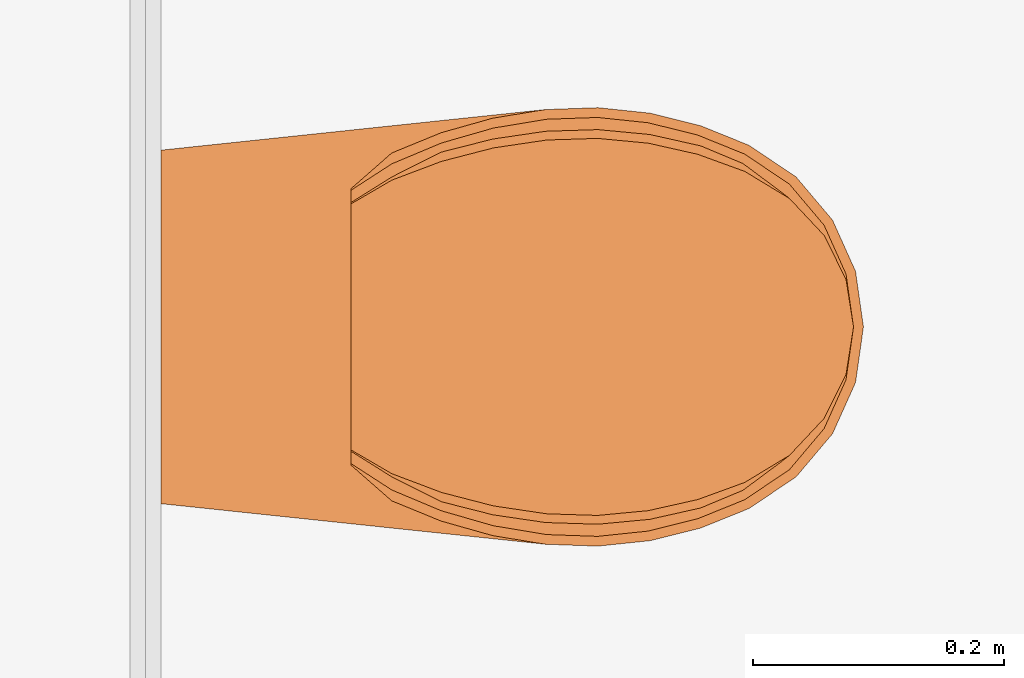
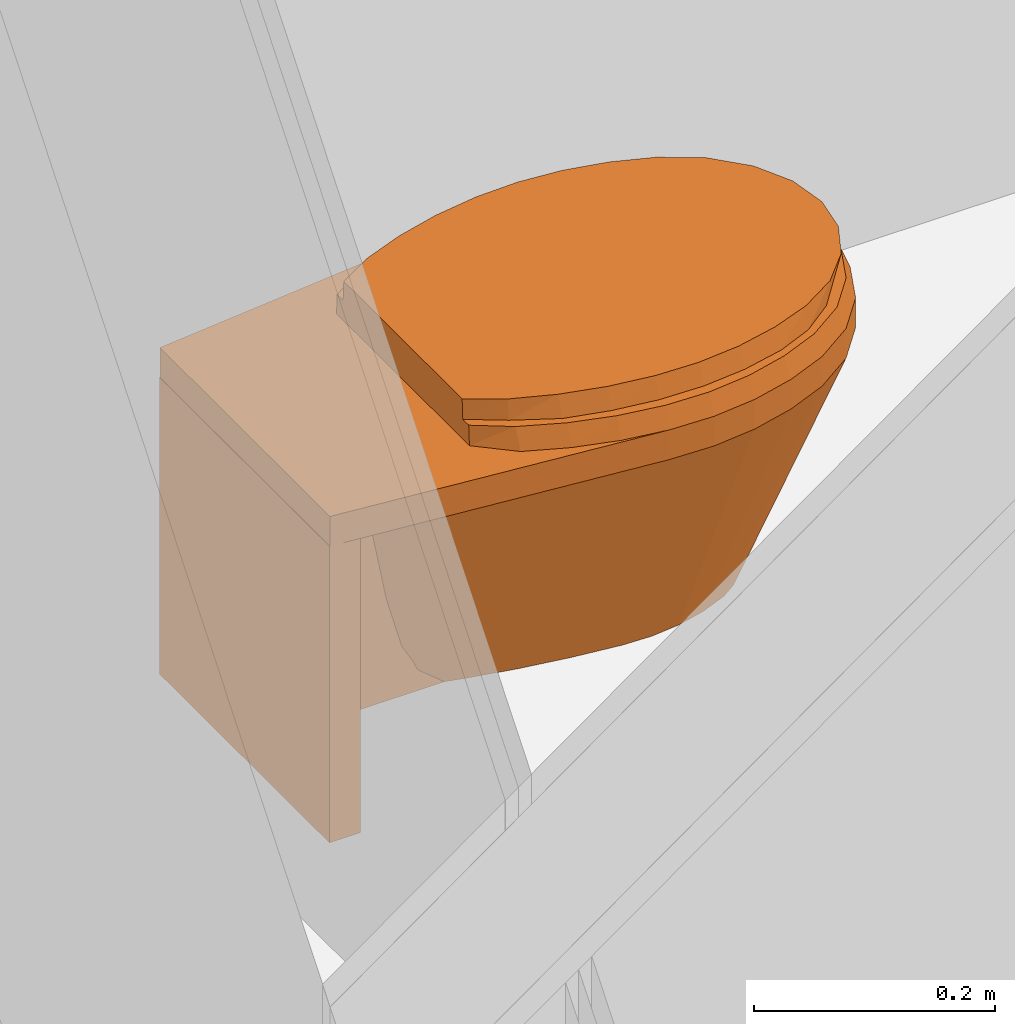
# One storey, part 131 of 135: 1 proxy.
"""IFC2X3 building model written with IfcOpenShell, lengths in millimetres."""

from ifc_helpers import new_model, entity, si_unit, converted_unit, derived_unit, money_unit, direction, frame, origin_with_axes, place, context, subcontext, project, spatial, open_shell, faceted_brep, surface_model, source, transform, mapped, type_object, type_shapes, element, save


model = new_model("IFC2X3")

# Units and contexts
model_context = context("Model", 3, precision=0.01, world=origin_with_axes(), true_north=direction((0.0, 1.0)))
body_context = subcontext(model_context, "Body", "Model", "MODEL_VIEW")
ifc_project = project(units=[si_unit("LENGTHUNIT", "METRE", prefix="MILLI"), si_unit("AREAUNIT", "SQUARE_METRE"), si_unit("VOLUMEUNIT", "CUBIC_METRE"), converted_unit("PLANEANGLEUNIT", "DEGREE", entity("IfcPlaneAngleMeasure", 0.0174532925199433), si_unit("PLANEANGLEUNIT", "RADIAN"), dimensions=[0, 0, 0, 0, 0, 0, 0]), money_unit("EUR"), converted_unit("TIMEUNIT", "Year", entity("IfcTimeMeasure", 31557600.0), si_unit("TIMEUNIT", "SECOND"), dimensions=[0, 0, 1, 0, 0, 0, 0]), si_unit("MASSUNIT", "GRAM", prefix="KILO"), si_unit("THERMODYNAMICTEMPERATUREUNIT", "DEGREE_CELSIUS"), si_unit("LUMINOUSINTENSITYUNIT", "LUMEN"), si_unit("ENERGYUNIT", "JOULE", prefix="MEGA"), derived_unit("THERMALCONDUCTANCEUNIT", [(si_unit("POWERUNIT", "WATT"), 1), (si_unit("LENGTHUNIT", "METRE"), -1), (si_unit("THERMODYNAMICTEMPERATUREUNIT", "KELVIN"), -1)]), derived_unit("SPECIFICHEATCAPACITYUNIT", [(si_unit("ENERGYUNIT", "JOULE"), 1), (si_unit("MASSUNIT", "GRAM", prefix="KILO"), -1), (si_unit("THERMODYNAMICTEMPERATUREUNIT", "KELVIN"), -1)]), derived_unit("MASSDENSITYUNIT", [(si_unit("MASSUNIT", "GRAM", prefix="KILO"), 1), (si_unit("VOLUMEUNIT", "CUBIC_METRE"), -1)])], contexts=[model_context])

# Site, building, storey
site_placement = place(None, origin_with_axes())
site = spatial("IfcSite", under=ifc_project, at=site_placement, Name="Site", CompositionType="ELEMENT")
building_placement = place(site_placement, origin_with_axes())
building = spatial("IfcBuilding", under=site, at=building_placement, Name="Naam gebouw", CompositionType="ELEMENT")
storey_placement = place(building_placement, origin_with_axes())
storey = spatial("IfcBuildingStorey", under=building, at=storey_placement, Name="Begane grond N", CompositionType="ELEMENT", Elevation=0.0)

# Proxy
building_element_proxy_type = type_object("IfcBuildingElementProxyType", Name="Toilet 27", PredefinedType="NOTDEFINED")
shared_shape = source(origin_with_axes(), body_context, "Body", "SurfaceModel", [
    faceted_brep([(141.0283315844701, -29.31865370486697, 69.99999999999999), (-141.0283315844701, -29.31865370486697, 69.99999999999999), (-141.0283315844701, 0.4949050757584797, 69.99999999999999), (141.0283315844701, 0.4949050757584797, 69.99999999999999), (141.0283315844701, -29.31865370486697, 370.0), (-141.0283315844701, -29.31865370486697, 370.0), (-141.0283315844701, 0.4949050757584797, 370.0), (141.0283315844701, 0.4949050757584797, 370.0)], [[[0, 1, 2, 3]], [[1, 0, 4, 5]], [[2, 1, 5, 6]], [[3, 2, 6, 7]], [[0, 3, 7, 4]], [[5, 4, 7, 6]]]),
    faceted_brep([(0.0, -70.89167385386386, 370.0), (29.22322490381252, -74.34010881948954, 370.0), (48.96817068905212, -81.5929972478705, 370.0), (48.96817068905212, -29.31865370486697, 370.0), (-48.96817068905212, -29.31865370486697, 370.0), (-48.96817068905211, -81.5929972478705, 370.0), (-29.22322490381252, -74.34010881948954, 370.0), (13.70129415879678, -104.9506834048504, 120.0), (48.96817068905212, -91.42153264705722, 305.9289314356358), (25.9903462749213, -111.5027098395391, 120.0), (48.96817068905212, -132.9294031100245, 150.8349994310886), (48.96817068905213, -162.8654130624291, 120.0), (48.96817068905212, -29.31865370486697, 120.0), (48.96817068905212, -98.32654517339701, 277.0091093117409), (48.96817068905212, -115.6023982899, 192.7960154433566), (48.96817068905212, -128.1614437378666, 166.4745945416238), (-48.96817068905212, -29.31865370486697, 120.0), (-48.96817068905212, -88.2509938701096, 324.1614695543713), (-48.96817068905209, -162.865413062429, 120.0), (-48.96817068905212, -136.958898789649, 141.3134093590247), (-48.96817068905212, -132.9294031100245, 150.8349994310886), (-48.96817068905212, -121.830119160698, 170.4964192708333), (-48.96817068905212, -115.6023982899, 192.7960154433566), (-48.96817068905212, -107.0876370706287, 223.4625696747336), (-48.96817068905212, -91.42153264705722, 305.9289314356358), (-13.70129415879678, -104.9506834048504, 120.0), (0.0, -102.6888280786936, 120.0), (35.59888072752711, -121.6691333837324, 120.0), (41.53676110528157, -134.4015105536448, 120.0), (-41.53676110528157, -134.4015105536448, 120.0), (-25.9903462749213, -111.5027098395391, 120.0), (-35.59888072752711, -121.6691333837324, 120.0)], [[[0, 1, 2, 3, 4, 5, 6]], [[1, 0, 7]], [[8, 2, 1, 9]], [[10, 11, 12, 3, 2, 8, 13, 14, 15]], [[3, 12, 16, 4]], [[17, 5, 4, 16, 18, 19, 20, 21, 22, 23, 24]], [[6, 5, 17, 25]], [[0, 6, 26]], [[26, 7, 0]], [[7, 9, 1]], [[13, 8, 9, 27]], [[11, 10, 28]], [[29, 18, 16, 12, 11, 28, 27, 9, 7, 26, 25, 30, 31]], [[14, 13, 27]], [[15, 14, 27, 28]], [[10, 15, 28]], [[18, 29, 19]], [[20, 19, 29]], [[29, 31, 21, 20]], [[22, 21, 31]], [[31, 30, 23, 22]], [[24, 23, 30]], [[30, 25, 17, 24]], [[25, 26, 6]]]),
    surface_model("IfcShellBasedSurfaceModel", [(17.69122070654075, -459.020482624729, 120.0), (34.02798181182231, -451.6883347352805, 120.0), (85.18209164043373, -535.3680377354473, 370.0), (0.0, -461.5278029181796, 120.0), (-17.69122070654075, -459.020482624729, 120.0), (-34.02798181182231, -451.6883347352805, 120.0), (-47.75865687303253, -440.0938417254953, 120.0), (-57.83238894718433, -425.1254476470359, 120.0), (-68.23029031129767, -399.4182096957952, 120.0), (-74.94382651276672, -372.4786779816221, 120.0), (-77.83882476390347, -344.8464779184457, 120.0), (-76.85750262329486, -317.0761416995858, 120.0), (-70.97348723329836, -270.8651255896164, 120.0), (-63.11507520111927, -224.9582077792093, 120.0), (-53.29597761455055, -179.4418475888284, 120.0), (-41.53676110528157, -134.4015105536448, 120.0), (-35.59888072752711, -121.6691333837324, 120.0), (-25.9903462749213, -111.5027098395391, 120.0), (-13.70129415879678, -104.9506834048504, 120.0), (0.0, -102.6888280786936, 120.0), (13.70129415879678, -104.9506834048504, 120.0), (25.9903462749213, -111.5027098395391, 120.0), (35.59888072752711, -121.6691333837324, 120.0), (41.53676110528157, -134.4015105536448, 120.0), (53.29597761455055, -179.4418475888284, 120.0), (63.11507520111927, -224.9582077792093, 120.0), (70.97348723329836, -270.8651255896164, 120.0), (76.85750262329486, -317.0761416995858, 120.0), (77.83882476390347, -344.845484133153, 120.0), (74.94382651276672, -372.4786779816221, 120.0), (68.23029031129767, -399.4182096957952, 120.0), (57.83238894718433, -425.1254476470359, 120.0), (47.75865687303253, -440.0938417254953, 120.0), (119.554809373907, -506.3435444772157, 370.0), (44.28681357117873, -553.722258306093, 370.0), (0.0, -560.0, 370.0), (-44.28681357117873, -553.722258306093, 370.0), (-85.18209164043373, -535.3680377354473, 370.0), (-119.554809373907, -506.3435444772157, 370.0), (-144.7734172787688, -468.8718762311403, 370.0), (-160.3893669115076, -430.2603362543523, 370.0), (-170.4738719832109, -389.7973742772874, 370.0), (-174.8222455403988, -348.2949128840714, 370.0), (-173.3473242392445, -306.5847503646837, 370.0), (-164.8111927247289, -257.295981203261, 370.0), (-149.8396642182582, -209.614162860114, 370.0), (-128.7050017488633, -164.3989196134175, 370.0), (-101.7881776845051, -122.4661491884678, 370.0), (-81.51241692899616, -100.8344247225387, 370.0), (-56.88632388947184, -84.50156343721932, 370.0), (-29.22322490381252, -74.34010881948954, 370.0), (0.0, -70.89167385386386, 370.0), (29.22322490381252, -74.34010881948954, 370.0), (56.88632388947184, -84.50156343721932, 370.0), (81.51241692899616, -100.8344247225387, 370.0), (101.7881776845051, -122.4661491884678, 370.0), (128.7050017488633, -164.3989196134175, 370.0), (149.8396642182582, -209.614162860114, 370.0), (164.8111927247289, -257.2969749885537, 370.0), (173.3473242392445, -306.5847503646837, 370.0), (174.8222455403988, -348.2949128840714, 370.0), (170.4738719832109, -389.7973742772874, 370.0), (160.3903462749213, -430.2603362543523, 370.0), (144.7734172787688, -468.8718762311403, 370.0)], [open_shell([[[0, 1, 2]], [[0, 3, 4, 5, 6, 7, 8, 9, 10, 11, 12, 13, 14, 15, 16, 17, 18, 19, 20, 21, 22, 23, 24, 25, 26, 27, 28, 29, 30, 31, 32, 1]], [[1, 33, 2]], [[0, 2, 34]], [[3, 0, 34]], [[4, 3, 35]], [[5, 4, 36]], [[6, 5, 37]], [[7, 6, 38]], [[8, 7, 39]], [[9, 8, 40]], [[10, 9, 41]], [[11, 10, 42]], [[12, 11, 43]], [[13, 12, 44]], [[14, 13, 45]], [[15, 14, 46]], [[16, 15, 47]], [[17, 16, 48]], [[18, 17, 49]], [[19, 18, 50]], [[20, 19, 51]], [[21, 20, 52]], [[22, 21, 53]], [[23, 22, 54]], [[24, 23, 55]], [[25, 24, 56]], [[26, 25, 57]], [[27, 26, 58]], [[28, 27, 59]], [[29, 28, 60]], [[30, 29, 61]], [[31, 30, 62]], [[32, 31, 63]], [[1, 32, 33]], [[3, 34, 35]], [[4, 35, 36]], [[5, 36, 37]], [[6, 37, 38]], [[7, 38, 39]], [[8, 39, 40]], [[9, 40, 41]], [[10, 41, 42]], [[11, 42, 43]], [[12, 43, 44]], [[13, 44, 45]], [[14, 45, 46]], [[15, 46, 47]], [[16, 47, 48]], [[17, 48, 49]], [[18, 49, 50]], [[19, 50, 51]], [[20, 51, 52]], [[21, 52, 53]], [[22, 53, 54]], [[23, 54, 55]], [[24, 55, 56]], [[25, 56, 57]], [[26, 57, 58]], [[27, 58, 59]], [[28, 59, 60]], [[29, 60, 61]], [[30, 61, 62]], [[31, 62, 63]], [[32, 63, 33]]])]),
    faceted_brep([(-173.3473242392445, -306.5847503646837, 370.0), (-174.8222455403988, -348.2949128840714, 370.0), (-174.8222455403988, -348.2949128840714, 400.0), (-173.3473242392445, -306.5847503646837, 400.0), (-140.9734872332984, 0.0, 370.0), (140.975445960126, 0.0, 370.0), (173.3473242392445, -306.5847503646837, 370.0), (174.8222455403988, -348.2949128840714, 370.0), (170.4738719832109, -389.7973742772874, 370.0), (160.3903462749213, -430.2603362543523, 370.0), (144.7734172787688, -468.8718762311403, 370.0), (119.554809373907, -506.3435444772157, 370.0), (85.18209164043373, -535.3680377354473, 370.0), (44.28681357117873, -553.722258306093, 370.0), (0.0, -560.0, 370.0), (-44.28681357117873, -553.722258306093, 370.0), (-85.18209164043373, -535.3680377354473, 370.0), (-119.554809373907, -506.3435444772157, 370.0), (-144.7734172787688, -468.8718762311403, 370.0), (-160.3893669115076, -430.2603362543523, 370.0), (-170.4738719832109, -389.7973742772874, 370.0), (144.5021336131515, -309.7211367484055, 370.0), (129.3885974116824, -258.2838037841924, 370.0), (97.13522210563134, -215.7418429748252, 370.0), (52.01301154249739, -187.731010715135, 370.0), (0.0, -177.9630950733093, 370.0), (-52.01301154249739, -187.731010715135, 370.0), (-97.13522210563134, -215.7418429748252, 370.0), (-129.3885974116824, -258.2838037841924, 370.0), (-144.5021336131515, -309.7211367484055, 370.0), (-145.8291710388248, -347.2633637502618, 370.0), (-141.914655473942, -384.6197529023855, 370.0), (-132.838894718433, -421.0399963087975, 370.0), (-118.7820916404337, -455.7936617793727, 370.0), (-98.09206016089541, -486.5383973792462, 370.0), (-69.89031129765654, -510.3524743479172, 370.0), (-36.33634137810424, -525.411302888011, 370.0), (0.0, -530.5620920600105, 370.0), (36.33634137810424, -525.411302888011, 370.0), (69.89031129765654, -510.3524743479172, 370.0), (98.09206016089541, -486.5383973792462, 370.0), (118.7820916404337, -455.7936617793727, 370.0), (132.838894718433, -421.0399963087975, 370.0), (141.914655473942, -384.6197529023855, 370.0), (145.8291710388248, -347.2633637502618, 370.0), (-170.4738719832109, -389.7973742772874, 400.0), (-160.3893669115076, -430.2603362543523, 400.0), (-144.7734172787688, -468.8718762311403, 400.0), (-119.554809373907, -506.3435444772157, 400.0), (-85.18209164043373, -535.3680377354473, 400.0), (-44.28681357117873, -553.722258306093, 400.0), (0.0, -560.0, 400.0), (44.28681357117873, -553.722258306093, 400.0), (85.18209164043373, -535.3680377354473, 400.0), (119.554809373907, -506.3435444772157, 400.0), (144.7734172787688, -468.8718762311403, 400.0), (160.3903462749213, -430.2603362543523, 400.0), (170.4738719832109, -389.7973742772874, 400.0), (174.8222455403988, -348.2949128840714, 400.0), (173.3473242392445, -306.5847503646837, 400.0), (140.975445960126, 0.0, 400.0), (-140.9734872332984, 0.0, 400.0), (144.5021336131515, -309.7211367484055, 400.0), (145.8291710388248, -347.2633637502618, 400.0), (141.914655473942, -384.6197529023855, 400.0), (132.838894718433, -421.0399963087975, 400.0), (118.7820916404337, -455.7936617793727, 400.0), (98.09206016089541, -486.5383973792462, 400.0), (69.89031129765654, -510.3524743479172, 400.0), (36.33634137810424, -525.411302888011, 400.0), (0.0, -530.5620920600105, 400.0), (-36.33634137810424, -525.411302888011, 400.0), (-69.89031129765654, -510.3524743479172, 400.0), (-98.09206016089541, -486.5383973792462, 400.0), (-118.7820916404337, -455.7936617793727, 400.0), (-132.838894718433, -421.0399963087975, 400.0), (-141.914655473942, -384.6197529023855, 400.0), (-145.8291710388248, -347.2633637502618, 400.0), (-144.5021336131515, -309.7211367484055, 400.0), (-129.3885974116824, -258.2838037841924, 400.0), (-97.13522210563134, -215.7418429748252, 400.0), (-52.01301154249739, -187.731010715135, 400.0), (0.0, -177.9630950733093, 400.0), (52.01301154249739, -187.731010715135, 400.0), (97.13522210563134, -215.7418429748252, 400.0), (129.3885974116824, -258.2838037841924, 400.0)], [[[0, 1, 2, 3]], [[0, 4, 5, 6, 7, 8, 9, 10, 11, 12, 13, 14, 15, 16, 17, 18, 19, 20, 1], [21, 22, 23, 24, 25, 26, 27, 28, 29, 30, 31, 32, 33, 34, 35, 36, 37, 38, 39, 40, 41, 42, 43, 44]], [[1, 20, 45, 2]], [[3, 2, 45, 46, 47, 48, 49, 50, 51, 52, 53, 54, 55, 56, 57, 58, 59, 60, 61], [62, 63, 64, 65, 66, 67, 68, 69, 70, 71, 72, 73, 74, 75, 76, 77, 78, 79, 80, 81, 82, 83, 84, 85]], [[4, 0, 3, 61]], [[5, 4, 61, 60]], [[6, 5, 60, 59]], [[7, 6, 59, 58]], [[8, 7, 58, 57]], [[9, 8, 57, 56]], [[10, 9, 56, 55]], [[11, 10, 55, 54]], [[12, 11, 54, 53]], [[13, 12, 53, 52]], [[14, 13, 52, 51]], [[15, 14, 51, 50]], [[16, 15, 50, 49]], [[17, 16, 49, 48]], [[18, 17, 48, 47]], [[19, 18, 47, 46]], [[20, 19, 46, 45]], [[22, 21, 62, 85]], [[23, 22, 85, 84]], [[24, 23, 84, 83]], [[25, 24, 83, 82]], [[26, 25, 82, 81]], [[27, 26, 81, 80]], [[28, 27, 80, 79]], [[29, 28, 79, 78]], [[30, 29, 78, 77]], [[31, 30, 77, 76]], [[32, 31, 76, 75]], [[33, 32, 75, 74]], [[34, 33, 74, 73]], [[35, 34, 73, 72]], [[36, 35, 72, 71]], [[37, 36, 71, 70]], [[38, 37, 70, 69]], [[39, 38, 69, 68]], [[40, 39, 68, 67]], [[41, 40, 67, 66]], [[42, 41, 66, 65]], [[43, 42, 65, 64]], [[44, 43, 64, 63]], [[21, 44, 63, 62]]]),
    surface_model("IfcShellBasedSurfaceModel", [(16.80665967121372, -465.7329258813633, 220.0), (32.3265827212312, -460.0138505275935, 220.0), (80.92298705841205, -525.2840188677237, 370.0), (0.0, -467.6886357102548, 220.0), (-16.80665967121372, -465.7329258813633, 220.0), (-32.3265827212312, -460.0138505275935, 220.0), (-45.3707240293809, -450.970145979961, 220.0), (-54.94076949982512, -439.2947985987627, 220.0), (-64.81877579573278, -419.2431529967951, 220.0), (-71.1966351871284, -398.23031825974, 220.0), (-73.9468835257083, -376.6772022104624, 220.0), (-73.01462749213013, -355.0163399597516, 220.0), (-67.42481287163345, -318.9717473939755, 220.0), (-59.95932144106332, -283.164351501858, 220.0), (-50.63117873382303, -247.6615905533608, 220.0), (-39.4599230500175, -212.5301276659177, 220.0), (-33.81893669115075, -202.598873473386, 220.0), (-24.69082896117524, -194.6690631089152, 220.0), (-13.01622945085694, -189.558482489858, 220.0), (0.0, -187.7942353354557, 220.0), (13.01622945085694, -189.558482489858, 220.0), (24.69082896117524, -194.6690631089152, 220.0), (33.81893669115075, -202.598873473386, 220.0), (39.4599230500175, -212.5301276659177, 220.0), (50.63117873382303, -247.6615905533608, 220.0), (59.95932144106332, -283.164351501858, 220.0), (67.42481287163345, -318.9717473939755, 220.0), (73.01462749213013, -355.0163399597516, 220.0), (73.9468835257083, -376.6764270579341, 220.0), (71.1966351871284, -398.23031825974, 220.0), (64.81877579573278, -419.2431529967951, 220.0), (54.94076949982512, -439.2947985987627, 220.0), (45.3707240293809, -450.970145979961, 220.0), (113.5770689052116, -502.644914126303, 370.0), (42.0724728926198, -539.6003109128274, 370.0), (0.0, -544.4969494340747, 370.0), (-42.0724728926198, -539.6003109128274, 370.0), (-80.92298705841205, -525.2840188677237, 370.0), (-113.5770689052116, -502.644914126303, 370.0), (-137.5347464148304, -473.4170128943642, 370.0), (-152.3698985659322, -443.3000117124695, 370.0), (-161.9501783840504, -411.7389013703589, 370.0), (-166.0811332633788, -379.3669814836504, 370.0), (-164.6799580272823, -346.833054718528, 370.0), (-156.5706330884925, -308.3878147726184, 370.0), (-142.3476810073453, -271.1959964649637, 370.0), (-122.2697516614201, -235.9281067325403, 370.0), (-96.69876880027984, -203.2205458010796, 370.0), (-77.43679608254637, -186.3478007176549, 370.0), (-54.04200769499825, -173.6081689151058, 370.0), (-27.7620636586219, -165.6822343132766, 370.0), (0.0, -162.9924550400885, 370.0), (27.7620636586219, -165.6822343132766, 370.0), (54.04200769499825, -173.6081689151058, 370.0), (77.43679608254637, -186.3478007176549, 370.0), (96.69876880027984, -203.2205458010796, 370.0), (122.2697516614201, -235.9281067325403, 370.0), (142.3476810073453, -271.1959964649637, 370.0), (156.5706330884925, -308.3885899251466, 370.0), (164.6799580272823, -346.833054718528, 370.0), (166.0811332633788, -379.3669814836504, 370.0), (161.9501783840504, -411.7389013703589, 370.0), (152.3708289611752, -443.3000117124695, 370.0), (137.5347464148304, -473.4170128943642, 370.0)], [open_shell([[[0, 1, 2]], [[0, 3, 4, 5, 6, 7, 8, 9, 10, 11, 12, 13, 14, 15, 16, 17, 18, 19, 20, 21, 22, 23, 24, 25, 26, 27, 28, 29, 30, 31, 32, 1]], [[1, 33, 2]], [[0, 2, 34]], [[3, 0, 34]], [[4, 3, 35]], [[5, 4, 36]], [[6, 5, 37]], [[7, 6, 38]], [[8, 7, 39]], [[9, 8, 40]], [[10, 9, 41]], [[11, 10, 42]], [[12, 11, 43]], [[13, 12, 44]], [[14, 13, 45]], [[15, 14, 46]], [[16, 15, 47]], [[17, 16, 48]], [[18, 17, 49]], [[19, 18, 50]], [[20, 19, 51]], [[21, 20, 52]], [[22, 21, 53]], [[23, 22, 54]], [[24, 23, 55]], [[25, 24, 56]], [[26, 25, 57]], [[27, 26, 58]], [[28, 27, 59]], [[29, 28, 60]], [[30, 29, 61]], [[31, 30, 62]], [[32, 31, 63]], [[1, 32, 33]], [[3, 34, 35]], [[4, 35, 36]], [[5, 36, 37]], [[6, 37, 38]], [[7, 38, 39]], [[8, 39, 40]], [[9, 40, 41]], [[10, 41, 42]], [[11, 42, 43]], [[12, 43, 44]], [[13, 44, 45]], [[14, 45, 46]], [[15, 46, 47]], [[16, 47, 48]], [[17, 48, 49]], [[18, 49, 50]], [[19, 50, 51]], [[20, 51, 52]], [[21, 52, 53]], [[22, 53, 54]], [[23, 54, 55]], [[24, 55, 56]], [[25, 56, 57]], [[26, 57, 58]], [[27, 58, 59]], [[28, 59, 60]], [[29, 60, 61]], [[30, 61, 62]], [[31, 62, 63]], [[32, 63, 33]]])]),
    faceted_brep([(0.0, -560.0, 400.0), (-44.28681357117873, -553.722258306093, 400.0), (-85.18209164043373, -535.3680377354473, 400.0), (-119.554809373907, -506.3435444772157, 400.0), (-144.7734172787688, -468.8718762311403, 400.0), (-160.3893669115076, -430.2603362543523, 400.0), (-170.4738719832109, -389.7973742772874, 400.0), (-174.8222455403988, -348.2949128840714, 400.0), (-173.3473242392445, -306.5847503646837, 400.0), (-166.4663168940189, -264.4263906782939, 400.0), (-154.8716334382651, -223.3443004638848, 400.0), (-138.7150752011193, -183.8810864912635, 400.0), (-110.1926579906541, -151.3163525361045, 400.0), (110.1926579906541, -151.3163525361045, 400.0), (138.7150752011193, -183.8810864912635, 400.0), (154.8716334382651, -223.3443004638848, 400.0), (166.4663168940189, -264.4263906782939, 400.0), (173.3473242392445, -306.5847503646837, 400.0), (174.8222455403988, -348.2949128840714, 400.0), (170.4738719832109, -389.7973742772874, 400.0), (160.3903462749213, -430.2603362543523, 400.0), (144.7734172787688, -468.8718762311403, 400.0), (119.554809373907, -506.3435444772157, 400.0), (85.18209164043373, -535.3680377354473, 400.0), (44.28681357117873, -553.722258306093, 400.0), (87.07689659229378, -411.9963613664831, 400.0), (94.51085540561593, -382.2763031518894, 400.0), (97.71606496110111, -351.7983255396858, 400.0), (96.61425296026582, -320.7429308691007, 400.0), (90.99294096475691, -286.7942733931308, 400.0), (81.32886310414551, -253.3381075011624, 400.0), (68.75448552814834, -223.4663237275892, 400.0), (-68.75412876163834, -223.4663237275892, 400.0), (-81.3289539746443, -253.3384220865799, 400.0), (-90.99294096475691, -286.7942733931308, 400.0), (-96.61425296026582, -320.7429308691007, 400.0), (-97.71606496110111, -351.7983255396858, 400.0), (-94.51085540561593, -382.2763031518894, 400.0), (-87.07689659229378, -411.9963613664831, 400.0), (-76.4888004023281, -438.0775703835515, 400.0), (-62.06856874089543, -459.4262123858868, 400.0), (-44.26109835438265, -474.4067566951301, 400.0), (-23.02579943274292, -483.9023013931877, 400.0), (0.0, -487.1544663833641, 400.0), (23.02579943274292, -483.9023013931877, 400.0), (44.26109835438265, -474.4067566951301, 400.0), (62.06856874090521, -459.4262123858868, 400.0), (76.4888004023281, -438.0775703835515, 400.0), (0.0, -552.0944379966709, 420.0000000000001), (-42.15180132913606, -546.1188070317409, 420.0000000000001), (-81.07562084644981, -528.649055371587, 420.0000000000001), (-113.7912556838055, -501.0248055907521, 420.0000000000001), (-137.7925148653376, -465.3598390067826, 420.0000000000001), (-152.9902763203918, -427.7848170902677, 420.0000000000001), (-162.8034977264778, -388.4070686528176, 420.0000000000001), (-167.0353270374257, -348.0176467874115, 420.0000000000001), (-165.6005596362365, -307.4274802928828, 420.0000000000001), (-158.5902763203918, -264.9332211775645, 420.0000000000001), (-146.6880727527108, -223.5758524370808, 420.0000000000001), (-130.06142007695, -183.9317695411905, 420.0000000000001), (-108.940468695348, -151.3163525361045, 420.0000000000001), (108.940468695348, -151.3163525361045, 420.0000000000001), (130.06142007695, -183.9307757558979, 420.0000000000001), (146.6880727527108, -223.5758524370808, 420.0000000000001), (158.5902763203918, -264.9332211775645, 420.0000000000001), (165.6005596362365, -307.4274802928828, 420.0000000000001), (167.0353270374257, -348.0176467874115, 420.0000000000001), (162.8034977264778, -388.4070686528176, 420.0000000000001), (152.9902763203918, -427.7848170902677, 420.0000000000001), (137.7925148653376, -465.3598390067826, 420.0000000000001), (113.7912556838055, -501.0248055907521, 420.0000000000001), (81.07562084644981, -528.649055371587, 420.0000000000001), (42.15180132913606, -546.1188070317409, 420.0000000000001), (87.07689659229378, -411.9963613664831, 420.0), (94.51085540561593, -382.2763031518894, 420.0), (97.71606496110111, -351.7983255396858, 420.0), (96.61425296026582, -320.7429308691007, 420.0), (90.99294096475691, -286.7942733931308, 420.0), (81.32886310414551, -253.3381075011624, 420.0), (68.75448552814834, -223.4663237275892, 420.0), (-68.75412876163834, -223.4663237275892, 420.0000000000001), (-81.3289539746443, -253.3384220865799, 420.0000000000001), (-90.99294096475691, -286.7942733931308, 420.0000000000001), (-96.61425296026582, -320.7429308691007, 420.0000000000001), (-97.71606496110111, -351.7983255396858, 420.0000000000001), (-94.51085540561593, -382.2763031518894, 420.0000000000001), (-87.07689659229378, -411.9963613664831, 420.0000000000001), (-76.4888004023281, -438.0775703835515, 420.0000000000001), (-62.06856874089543, -459.4262123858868, 420.0000000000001), (-44.26109835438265, -474.4067566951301, 420.0000000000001), (-23.02579943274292, -483.9023013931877, 420.0000000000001), (0.0, -487.1544663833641, 420.0), (23.02579943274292, -483.9023013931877, 420.0), (44.26109835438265, -474.4067566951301, 420.0), (62.06856874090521, -459.4262123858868, 420.0), (76.4888004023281, -438.0775703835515, 420.0)], [[[0, 1, 2, 3, 4, 5, 6, 7, 8, 9, 10, 11, 12, 13, 14, 15, 16, 17, 18, 19, 20, 21, 22, 23, 24], [25, 26, 27, 28, 29, 30, 31, 32, 33, 34, 35, 36, 37, 38, 39, 40, 41, 42, 43, 44, 45, 46, 47]], [[1, 0, 48]], [[2, 1, 49]], [[3, 2, 50]], [[4, 3, 51]], [[5, 4, 52]], [[6, 5, 53]], [[6, 54, 55, 7]], [[8, 7, 55]], [[9, 8, 56]], [[10, 9, 57]], [[11, 10, 58]], [[12, 11, 59]], [[12, 60, 61, 13]], [[14, 13, 61]], [[15, 14, 62]], [[16, 15, 63]], [[17, 16, 64]], [[18, 17, 65]], [[18, 66, 67, 19]], [[20, 19, 67]], [[20, 68, 69, 21]], [[22, 21, 69]], [[23, 22, 70]], [[24, 23, 71]], [[0, 24, 72]], [[73, 74, 26, 25]], [[74, 75, 27, 26]], [[75, 76, 28, 27]], [[76, 77, 29, 28]], [[77, 78, 30, 29]], [[78, 79, 31, 30]], [[79, 80, 32, 31]], [[80, 81, 33, 32]], [[81, 82, 34, 33]], [[82, 83, 35, 34]], [[83, 84, 36, 35]], [[84, 85, 37, 36]], [[85, 86, 38, 37]], [[86, 87, 39, 38]], [[87, 88, 40, 39]], [[88, 89, 41, 40]], [[89, 90, 42, 41]], [[90, 91, 43, 42]], [[91, 92, 44, 43]], [[92, 93, 45, 44]], [[93, 94, 46, 45]], [[94, 95, 47, 46]], [[95, 73, 25, 47]], [[0, 72, 48]], [[1, 48, 49]], [[2, 49, 50]], [[3, 50, 51]], [[4, 51, 52]], [[5, 52, 53]], [[6, 53, 54]], [[54, 53, 52, 51, 50, 49, 48, 72, 71, 70, 69, 68, 67, 66, 65, 64, 63, 62, 61, 60, 59, 58, 57, 56, 55], [77, 76, 75, 74, 73, 95, 94, 93, 92, 91, 90, 89, 88, 87, 86, 85, 84, 83, 82, 81, 80, 79, 78]], [[8, 55, 56]], [[9, 56, 57]], [[10, 57, 58]], [[11, 58, 59]], [[12, 59, 60]], [[14, 61, 62]], [[15, 62, 63]], [[16, 63, 64]], [[17, 64, 65]], [[18, 65, 66]], [[20, 67, 68]], [[22, 69, 70]], [[23, 70, 71]], [[24, 71, 72]]]),
    faceted_brep([(-107.5993284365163, -494.4181209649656, 420.0000000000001), (-76.66388247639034, -519.4674730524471, 420.0000000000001), (-72.96805876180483, -528.649055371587, 440.0000000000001), (-130.2960755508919, -463.9029497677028, 420.0000000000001), (-144.3504302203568, -430.2603362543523, 420.0000000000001), (-153.4264847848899, -389.7973742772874, 420.0000000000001), (-157.3400209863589, -348.2949128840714, 420.0000000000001), (-156.01259181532, -306.5847503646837, 420.0000000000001), (-149.819685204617, -264.4263906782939, 420.0000000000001), (-139.3844700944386, -223.3443004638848, 420.0000000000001), (-119.5550052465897, -183.8810864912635, 420.0000000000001), (-99.17339219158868, -151.3163525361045, 420.0000000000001), (99.17339219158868, -151.3163525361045, 420.0000000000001), (119.5550052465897, -183.8810864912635, 420.0000000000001), (139.3844700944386, -223.3443004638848, 420.0000000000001), (149.819685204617, -264.4263906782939, 420.0000000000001), (156.01259181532, -306.5847503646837, 420.0000000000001), (157.3400209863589, -348.2949128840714, 420.0000000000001), (153.4264847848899, -389.7973742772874, 420.0000000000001), (144.3513116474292, -430.2603362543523, 420.0000000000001), (130.2960755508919, -463.9029497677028, 420.0000000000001), (107.5993284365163, -494.4181209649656, 420.0000000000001), (76.66388247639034, -519.4674730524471, 420.0000000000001), (39.85813221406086, -538.8154789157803, 420.0000000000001), (0.0, -545.0932206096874, 420.0000000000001), (-39.85813221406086, -538.8154789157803, 420.0000000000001), (-37.93662119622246, -546.1188070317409, 440.0000000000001), (-102.412130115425, -501.0248055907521, 440.0000000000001), (-124.0132633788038, -465.3598390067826, 440.0000000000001), (-137.6912486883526, -427.7848170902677, 440.0000000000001), (-146.52314795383, -388.4070686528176, 440.0000000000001), (-150.3317943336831, -348.0176467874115, 440.0000000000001), (-149.0405036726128, -307.4274802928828, 440.0000000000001), (-142.7312486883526, -264.9332211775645, 440.0000000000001), (-132.0192654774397, -223.5758524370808, 440.0000000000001), (-117.055278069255, -183.9317695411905, 440.0000000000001), (-98.04642182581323, -151.3163525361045, 440.0000000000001), (98.04642182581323, -151.3163525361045, 440.0000000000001), (117.055278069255, -183.9307757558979, 440.0000000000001), (132.0192654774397, -223.5758524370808, 440.0000000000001), (142.7312486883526, -264.9332211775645, 440.0000000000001), (149.0405036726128, -307.4274802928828, 440.0000000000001), (150.3317943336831, -348.0176467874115, 440.0000000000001), (146.52314795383, -388.4070686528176, 440.0000000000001), (137.6912486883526, -427.7848170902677, 440.0000000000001), (124.0132633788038, -465.3598390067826, 440.0000000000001), (102.412130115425, -501.0248055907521, 440.0000000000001), (72.96805876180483, -528.649055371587, 440.0000000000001), (37.93662119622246, -546.1188070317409, 440.0000000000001), (0.0, -552.0944379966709, 440.0000000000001)], [[[0, 1, 2]], [[0, 3, 4, 5, 6, 7, 8, 9, 10, 11, 12, 13, 14, 15, 16, 17, 18, 19, 20, 21, 22, 23, 24, 25, 1]], [[1, 26, 2]], [[0, 2, 27]], [[3, 0, 27]], [[4, 3, 28]], [[5, 4, 29]], [[6, 5, 30, 31]], [[7, 6, 31]], [[8, 7, 32]], [[9, 8, 33]], [[10, 9, 34]], [[11, 10, 35]], [[12, 11, 36, 37]], [[13, 12, 37]], [[14, 13, 38]], [[15, 14, 39]], [[16, 15, 40]], [[17, 16, 41]], [[18, 17, 42, 43]], [[19, 18, 43]], [[20, 19, 44]], [[21, 20, 45]], [[22, 21, 46]], [[23, 22, 47]], [[24, 23, 48]], [[25, 24, 49]], [[1, 25, 26]], [[27, 2, 26, 49, 48, 47, 46, 45, 44, 43, 42, 41, 40, 39, 38, 37, 36, 35, 34, 33, 32, 31, 30, 29, 28]], [[3, 27, 28]], [[4, 28, 29]], [[5, 29, 30]], [[7, 31, 32]], [[8, 32, 33]], [[9, 33, 34]], [[10, 34, 35]], [[11, 35, 36]], [[13, 37, 38]], [[14, 38, 39]], [[15, 39, 40]], [[16, 40, 41]], [[17, 41, 42]], [[19, 43, 44]], [[20, 44, 45]], [[21, 45, 46]], [[22, 46, 47]], [[23, 47, 48]], [[24, 48, 49]], [[25, 49, 26]]]),
])
type_shapes(building_element_proxy_type, [shared_shape])
proxy_placement = place(storey_placement, frame((20735.99999999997, 30793.41242510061, 0.0), z_axis=(0.0, 0.0, 1.0), x_axis=(0.0, 1.0, 0.0)))
element("IfcBuildingElementProxy", 1, at=proxy_placement, inside=storey, type_object=building_element_proxy_type, Name="_Sanitair-x", context=body_context, shape_type="MappedRepresentation", body=[
    mapped(shared_shape, transform((0.0, 0.0, 0.0))),
])

save(model, "model.ifc")
